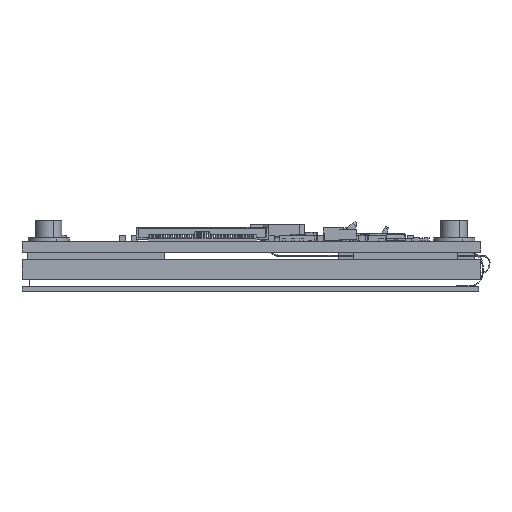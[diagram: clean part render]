
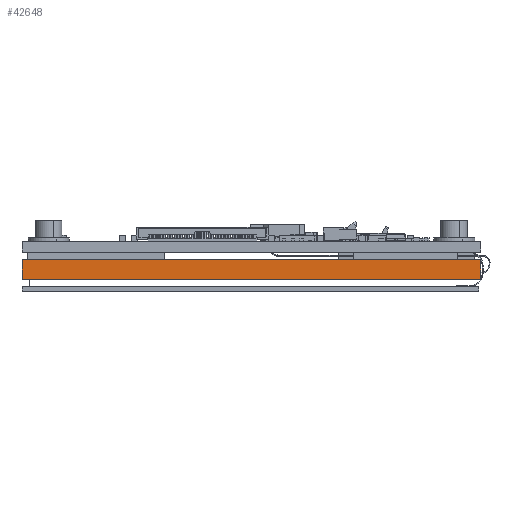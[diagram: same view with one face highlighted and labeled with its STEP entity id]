
A CAD part, left-side view. The second image highlights one B-rep face of the part: STEP entity #42648.
In plain terms, the highlighted planar face has unit normal (-1, 0, 0).
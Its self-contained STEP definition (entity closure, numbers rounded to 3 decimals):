
#2641 = VERTEX_POINT ( 'NONE', #147406 ) ;
#13132 = ORIENTED_EDGE ( 'NONE', *, *, #86965, .F. ) ;
#17028 = CARTESIAN_POINT ( 'NONE',  ( -104.85, 47.45, 6.772 ) ) ;
#40923 = PLANE ( 'NONE',  #145923 ) ;
#42062 = FACE_OUTER_BOUND ( 'NONE', #89459, .T. ) ;
#42648 = ADVANCED_FACE ( 'NONE', ( #42062 ), #40923, .T. ) ;
#46766 = VECTOR ( 'NONE', #83438, 1000. ) ;
#49817 = DIRECTION ( 'NONE',  ( 0., -1., 0. ) ) ;
#53978 = CARTESIAN_POINT ( 'NONE',  ( -104.85, -19.7, 6.772 ) ) ;
#63419 = CARTESIAN_POINT ( 'NONE',  ( -104.85, -19.7, 6.772 ) ) ;
#64779 = VERTEX_POINT ( 'NONE', #170720 ) ;
#66776 = LINE ( 'NONE', #186818, #79873 ) ;
#68740 = DIRECTION ( 'NONE',  ( 0., -1., 0. ) ) ;
#69654 = VECTOR ( 'NONE', #68740, 1000. ) ;
#79873 = VECTOR ( 'NONE', #49817, 1000. ) ;
#82292 = ORIENTED_EDGE ( 'NONE', *, *, #111542, .F. ) ;
#83438 = DIRECTION ( 'NONE',  ( 0., 0., 1. ) ) ;
#86965 = EDGE_CURVE ( 'NONE', #203108, #2641, #104208, .T. ) ;
#89459 = EDGE_LOOP ( 'NONE', ( #82292, #13132, #98553, #153064 ) ) ;
#90516 = VECTOR ( 'NONE', #173283, 1000. ) ;
#92928 = DIRECTION ( 'NONE',  ( -1., 0., 0. ) ) ;
#98553 = ORIENTED_EDGE ( 'NONE', *, *, #160214, .T. ) ;
#104208 = LINE ( 'NONE', #17028, #90516 ) ;
#111542 = EDGE_CURVE ( 'NONE', #2641, #64779, #66776, .T. ) ;
#121893 = LINE ( 'NONE', #53978, #46766 ) ;
#123371 = VERTEX_POINT ( 'NONE', #63419 ) ;
#138822 = LINE ( 'NONE', #221501, #69654 ) ;
#145923 = AXIS2_PLACEMENT_3D ( 'NONE', #146128, #92928, #193790 ) ;
#146128 = CARTESIAN_POINT ( 'NONE',  ( -104.85, 47.45, 6.772 ) ) ;
#147406 = CARTESIAN_POINT ( 'NONE',  ( -104.85, 47.45, 9.622 ) ) ;
#153064 = ORIENTED_EDGE ( 'NONE', *, *, #200773, .T. ) ;
#160214 = EDGE_CURVE ( 'NONE', #203108, #123371, #138822, .T. ) ;
#170720 = CARTESIAN_POINT ( 'NONE',  ( -104.85, -19.7, 9.622 ) ) ;
#173283 = DIRECTION ( 'NONE',  ( 0., 0., 1. ) ) ;
#186818 = CARTESIAN_POINT ( 'NONE',  ( -104.85, 47.45, 9.622 ) ) ;
#193790 = DIRECTION ( 'NONE',  ( 0., 1., 0. ) ) ;
#200773 = EDGE_CURVE ( 'NONE', #123371, #64779, #121893, .T. ) ;
#203108 = VERTEX_POINT ( 'NONE', #216539 ) ;
#216539 = CARTESIAN_POINT ( 'NONE',  ( -104.85, 47.45, 6.772 ) ) ;
#221501 = CARTESIAN_POINT ( 'NONE',  ( -104.85, 47.45, 6.772 ) ) ;
